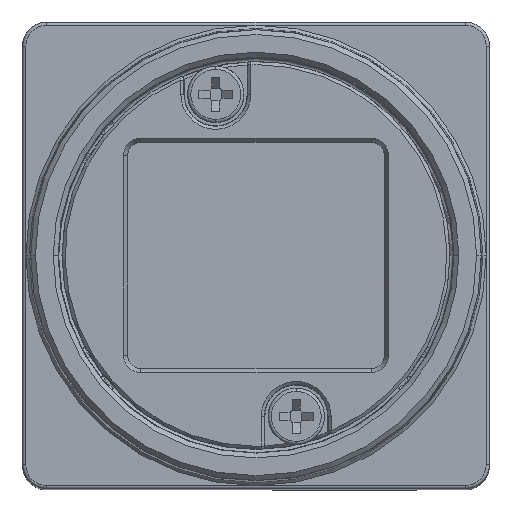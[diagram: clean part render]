
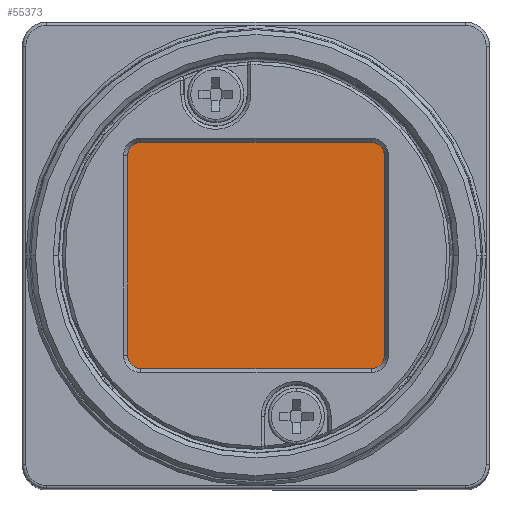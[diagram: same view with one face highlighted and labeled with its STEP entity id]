
A CAD part, top view. The second image highlights one B-rep face of the part: STEP entity #55373.
In plain terms, the highlighted planar face has unit normal (0, 0, 1).
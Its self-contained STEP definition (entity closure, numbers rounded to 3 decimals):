
#21885=DIRECTION('',(-1.,0.,0.));
#21886=VECTOR('',#21885,14.3);
#21887=CARTESIAN_POINT('',(7.15,7.03,-0.85));
#21888=LINE('',#21887,#21886);
#21892=CARTESIAN_POINT('',(7.15,6.2,-0.85));
#21893=DIRECTION('',(0.,0.,1.));
#21894=DIRECTION('',(1.,0.,0.));
#21895=AXIS2_PLACEMENT_3D('',#21892,#21893,#21894);
#21900=DIRECTION('',(0.,1.,0.));
#21901=VECTOR('',#21900,12.4);
#21902=CARTESIAN_POINT('',(7.98,-6.2,-0.85));
#21903=LINE('',#21902,#21901);
#21907=CARTESIAN_POINT('',(7.15,-6.2,-0.85));
#21908=DIRECTION('',(0.,0.,1.));
#21909=DIRECTION('',(0.,-1.,0.));
#21910=AXIS2_PLACEMENT_3D('',#21907,#21908,#21909);
#21915=DIRECTION('',(1.,0.,0.));
#21916=VECTOR('',#21915,14.3);
#21917=CARTESIAN_POINT('',(-7.15,-7.03,-0.85));
#21918=LINE('',#21917,#21916);
#21922=CARTESIAN_POINT('',(-7.15,-6.2,-0.85));
#21923=DIRECTION('',(0.,0.,1.));
#21924=DIRECTION('',(-1.,0.,0.));
#21925=AXIS2_PLACEMENT_3D('',#21922,#21923,#21924);
#21930=DIRECTION('',(0.,-1.,0.));
#21931=VECTOR('',#21930,12.4);
#21932=CARTESIAN_POINT('',(-7.98,6.2,-0.85));
#21933=LINE('',#21932,#21931);
#21937=CARTESIAN_POINT('',(-7.15,6.2,-0.85));
#21938=DIRECTION('',(0.,0.,1.));
#21939=DIRECTION('',(0.,1.,0.));
#21940=AXIS2_PLACEMENT_3D('',#21937,#21938,#21939);
#32668=CARTESIAN_POINT('',(7.15,7.03,-0.85));
#32669=CARTESIAN_POINT('',(-7.15,7.03,-0.85));
#32670=VERTEX_POINT('',#32668);
#32671=VERTEX_POINT('',#32669);
#32672=CARTESIAN_POINT('',(-7.98,6.2,-0.85));
#32673=VERTEX_POINT('',#32672);
#32674=CARTESIAN_POINT('',(-7.98,-6.2,-0.85));
#32675=VERTEX_POINT('',#32674);
#32676=CARTESIAN_POINT('',(-7.15,-7.03,-0.85));
#32677=VERTEX_POINT('',#32676);
#32678=CARTESIAN_POINT('',(7.15,-7.03,-0.85));
#32679=VERTEX_POINT('',#32678);
#32680=CARTESIAN_POINT('',(7.98,-6.2,-0.85));
#32681=VERTEX_POINT('',#32680);
#32682=CARTESIAN_POINT('',(7.98,6.2,-0.85));
#32683=VERTEX_POINT('',#32682);
#55350=CARTESIAN_POINT('',(0.,0.,-0.85));
#55351=DIRECTION('',(0.,0.,1.));
#55352=DIRECTION('',(1.,0.,0.));
#55353=AXIS2_PLACEMENT_3D('',#55350,#55351,#55352);
#55354=PLANE('',#55353);
#55356=ORIENTED_EDGE('',*,*,#55355,.F.);
#55358=ORIENTED_EDGE('',*,*,#55357,.F.);
#55360=ORIENTED_EDGE('',*,*,#55359,.F.);
#55362=ORIENTED_EDGE('',*,*,#55361,.F.);
#55364=ORIENTED_EDGE('',*,*,#55363,.F.);
#55366=ORIENTED_EDGE('',*,*,#55365,.F.);
#55368=ORIENTED_EDGE('',*,*,#55367,.F.);
#55370=ORIENTED_EDGE('',*,*,#55369,.F.);
#55371=EDGE_LOOP('',(#55356,#55358,#55360,#55362,#55364,#55366,#55368,#55370));
#55372=FACE_OUTER_BOUND('',#55371,.F.);
#55373=ADVANCED_FACE('',(#55372),#55354,.T.);
#21896=CIRCLE('',#21895,0.83);
#21911=CIRCLE('',#21910,0.83);
#21926=CIRCLE('',#21925,0.83);
#21941=CIRCLE('',#21940,0.83);
#55355=EDGE_CURVE('',#32670,#32671,#21888,.T.);
#55357=EDGE_CURVE('',#32683,#32670,#21896,.T.);
#55359=EDGE_CURVE('',#32681,#32683,#21903,.T.);
#55361=EDGE_CURVE('',#32679,#32681,#21911,.T.);
#55363=EDGE_CURVE('',#32677,#32679,#21918,.T.);
#55365=EDGE_CURVE('',#32675,#32677,#21926,.T.);
#55367=EDGE_CURVE('',#32673,#32675,#21933,.T.);
#55369=EDGE_CURVE('',#32671,#32673,#21941,.T.);
